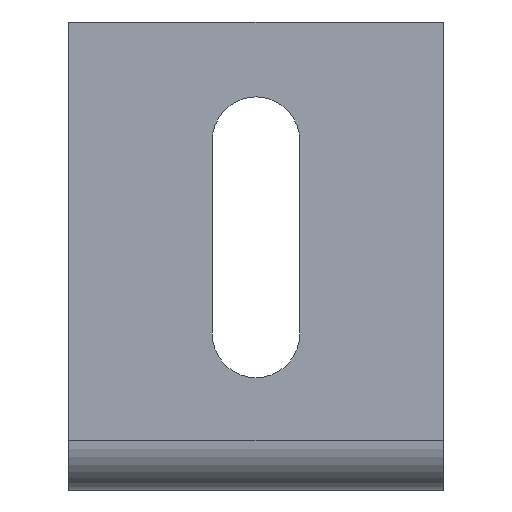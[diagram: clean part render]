
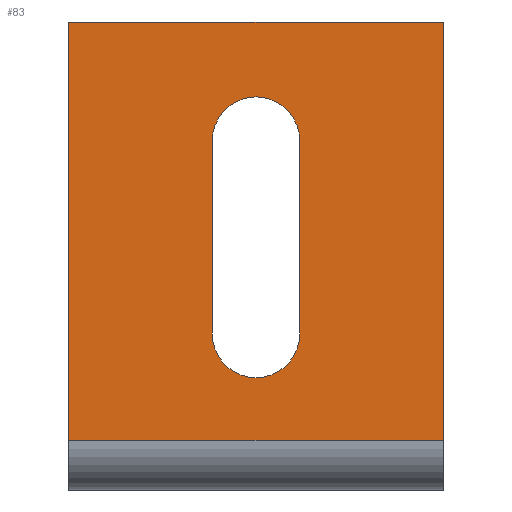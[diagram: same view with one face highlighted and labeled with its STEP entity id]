
A CAD part, front view. The second image highlights one B-rep face of the part: STEP entity #83.
In plain terms, the highlighted planar face has unit normal (0, -1, 0).
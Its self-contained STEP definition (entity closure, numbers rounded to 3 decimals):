
#2 = DIRECTION ( 'NONE',  ( 0., 0., -1. ) ) ;
#12 = EDGE_CURVE ( 'NONE', #392, #76, #423, .T. ) ;
#15 = DIRECTION ( 'NONE',  ( 0., 0., -1. ) ) ;
#17 = DIRECTION ( 'NONE',  ( 0., 0., 1. ) ) ;
#18 = ORIENTED_EDGE ( 'NONE', *, *, #372, .T. ) ;
#39 = CARTESIAN_POINT ( 'NONE',  ( 23., 0., 0. ) ) ;
#40 = DIRECTION ( 'NONE',  ( 0., 0., 1. ) ) ;
#51 = CARTESIAN_POINT ( 'NONE',  ( 60., 0., 0. ) ) ;
#56 = EDGE_CURVE ( 'NONE', #392, #409, #475, .T. ) ;
#76 = VERTEX_POINT ( 'NONE', #397 ) ;
#77 = ORIENTED_EDGE ( 'NONE', *, *, #12, .F. ) ;
#78 = LINE ( 'NONE', #39, #106 ) ;
#83 = ADVANCED_FACE ( 'NONE', ( #376, #291 ), #107, .F. ) ;
#90 = CARTESIAN_POINT ( 'NONE',  ( 23., 0., -19. ) ) ;
#92 = EDGE_CURVE ( 'NONE', #161, #455, #217, .T. ) ;
#98 = VERTEX_POINT ( 'NONE', #214 ) ;
#99 = AXIS2_PLACEMENT_3D ( 'NONE', #452, #199, #17 ) ;
#106 = VECTOR ( 'NONE', #147, 1000. ) ;
#107 = PLANE ( 'NONE',  #478 ) ;
#110 = CARTESIAN_POINT ( 'NONE',  ( 23., 0., -50. ) ) ;
#111 = CARTESIAN_POINT ( 'NONE',  ( 60., 0., 0. ) ) ;
#121 = EDGE_CURVE ( 'NONE', #409, #495, #612, .T. ) ;
#147 = DIRECTION ( 'NONE',  ( 0., 0., 1. ) ) ;
#154 = VECTOR ( 'NONE', #189, 1000. ) ;
#159 = DIRECTION ( 'NONE',  ( 0., 1., 0. ) ) ;
#161 = VERTEX_POINT ( 'NONE', #250 ) ;
#164 = DIRECTION ( 'NONE',  ( 0., 1., 0. ) ) ;
#165 = EDGE_CURVE ( 'NONE', #382, #161, #556, .T. ) ;
#176 = VECTOR ( 'NONE', #536, 1000. ) ;
#187 = CARTESIAN_POINT ( 'NONE',  ( 60., 0., 0. ) ) ;
#189 = DIRECTION ( 'NONE',  ( 0., 0., -1. ) ) ;
#193 = CARTESIAN_POINT ( 'NONE',  ( 30., 0., -50. ) ) ;
#199 = DIRECTION ( 'NONE',  ( 0., 1., 0. ) ) ;
#214 = CARTESIAN_POINT ( 'NONE',  ( 37., 0., -50. ) ) ;
#217 = CIRCLE ( 'NONE', #450, 7. ) ;
#229 = VECTOR ( 'NONE', #15, 1000. ) ;
#243 = DIRECTION ( 'NONE',  ( 0., 1., 0. ) ) ;
#250 = CARTESIAN_POINT ( 'NONE',  ( 30., 0., -12. ) ) ;
#284 = CARTESIAN_POINT ( 'NONE',  ( 60., 0., -67. ) ) ;
#291 = FACE_OUTER_BOUND ( 'NONE', #513, .T. ) ;
#317 = ORIENTED_EDGE ( 'NONE', *, *, #364, .T. ) ;
#318 = VERTEX_POINT ( 'NONE', #110 ) ;
#331 = VECTOR ( 'NONE', #385, 1000. ) ;
#361 = DIRECTION ( 'NONE',  ( 0., 0., 1. ) ) ;
#364 = EDGE_CURVE ( 'NONE', #455, #98, #573, .T. ) ;
#372 = EDGE_CURVE ( 'NONE', #318, #382, #78, .T. ) ;
#373 = CARTESIAN_POINT ( 'NONE',  ( 0., 0., 0. ) ) ;
#376 = FACE_BOUND ( 'NONE', #486, .T. ) ;
#382 = VERTEX_POINT ( 'NONE', #90 ) ;
#383 = CARTESIAN_POINT ( 'NONE',  ( 0., 0., -67. ) ) ;
#384 = ORIENTED_EDGE ( 'NONE', *, *, #56, .T. ) ;
#385 = DIRECTION ( 'NONE',  ( 1., 0., 0. ) ) ;
#392 = VERTEX_POINT ( 'NONE', #187 ) ;
#397 = CARTESIAN_POINT ( 'NONE',  ( 60., 0., -67. ) ) ;
#404 = EDGE_CURVE ( 'NONE', #495, #76, #616, .T. ) ;
#409 = VERTEX_POINT ( 'NONE', #373 ) ;
#423 = LINE ( 'NONE', #51, #493 ) ;
#440 = CARTESIAN_POINT ( 'NONE',  ( 37., 0., -19. ) ) ;
#450 = AXIS2_PLACEMENT_3D ( 'NONE', #504, #164, #553 ) ;
#452 = CARTESIAN_POINT ( 'NONE',  ( 30., 0., -19. ) ) ;
#455 = VERTEX_POINT ( 'NONE', #440 ) ;
#473 = CIRCLE ( 'NONE', #615, 7. ) ;
#475 = LINE ( 'NONE', #538, #176 ) ;
#478 = AXIS2_PLACEMENT_3D ( 'NONE', #111, #159, #361 ) ;
#480 = ORIENTED_EDGE ( 'NONE', *, *, #92, .T. ) ;
#486 = EDGE_LOOP ( 'NONE', ( #561, #18, #586, #480, #317 ) ) ;
#493 = VECTOR ( 'NONE', #2, 1000. ) ;
#495 = VERTEX_POINT ( 'NONE', #383 ) ;
#504 = CARTESIAN_POINT ( 'NONE',  ( 30., 0., -19. ) ) ;
#505 = EDGE_CURVE ( 'NONE', #98, #318, #473, .T. ) ;
#507 = CARTESIAN_POINT ( 'NONE',  ( 0., 0., 0. ) ) ;
#513 = EDGE_LOOP ( 'NONE', ( #537, #562, #77, #384 ) ) ;
#536 = DIRECTION ( 'NONE',  ( -1., 0., 0. ) ) ;
#537 = ORIENTED_EDGE ( 'NONE', *, *, #121, .T. ) ;
#538 = CARTESIAN_POINT ( 'NONE',  ( 60., 0., 0. ) ) ;
#553 = DIRECTION ( 'NONE',  ( 0., 0., 1. ) ) ;
#556 = CIRCLE ( 'NONE', #99, 7. ) ;
#561 = ORIENTED_EDGE ( 'NONE', *, *, #505, .T. ) ;
#562 = ORIENTED_EDGE ( 'NONE', *, *, #404, .T. ) ;
#571 = CARTESIAN_POINT ( 'NONE',  ( 37., 0., 0. ) ) ;
#573 = LINE ( 'NONE', #571, #154 ) ;
#586 = ORIENTED_EDGE ( 'NONE', *, *, #165, .T. ) ;
#612 = LINE ( 'NONE', #507, #229 ) ;
#615 = AXIS2_PLACEMENT_3D ( 'NONE', #193, #243, #40 ) ;
#616 = LINE ( 'NONE', #284, #331 ) ;
